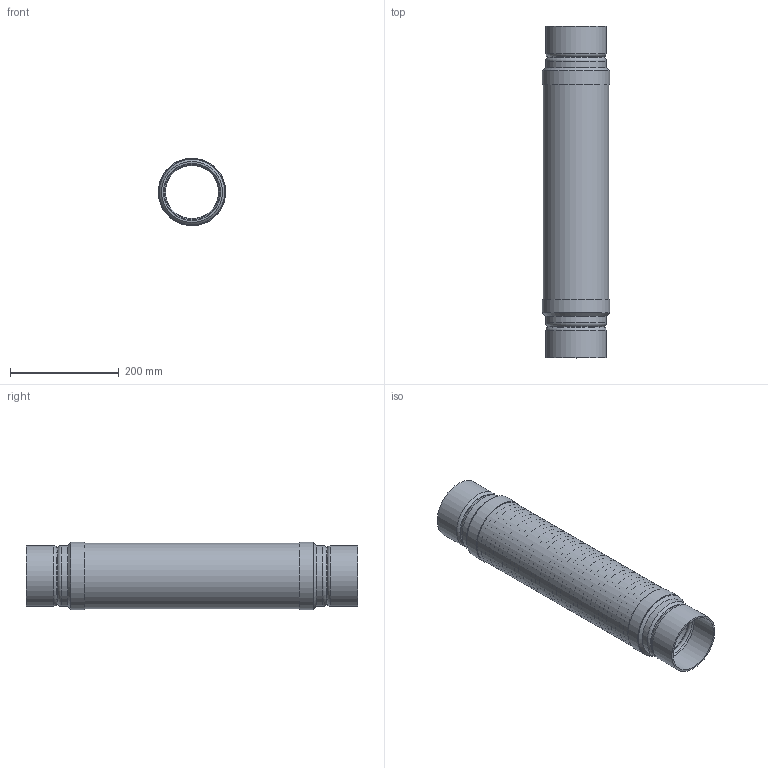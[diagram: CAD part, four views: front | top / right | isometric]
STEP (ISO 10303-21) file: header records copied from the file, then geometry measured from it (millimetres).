
FILE_DESCRIPTION((''),'2;1');
FILE_NAME('C:\2012_Work\Designs\CPSB\CPSB-4x18\CPSB-4x24.stp','2013-08-27T13:37:00',('KShiels'),(''),'Autodesk Inventor 2012','Autodesk Inventor 2012','');
FILE_SCHEMA(('AUTOMOTIVE_DESIGN { 1 0 10303 214 1 1 1 1 }'));
Length unit declared in the file: inch
Products named in the file (6): CPSB-4x24; CPSB-4x24_Welds; A-32711_4x24_CPSB_BRAID; A-32711_4x24_CPSB_BELLOWS; A-32711_4x24_CPSB_BRAID-COLLAR; A-32711_4x24_CPSB_GROOVED_NIPPLE
Assembly tree (7 placements, depth 2):
  CPSB-4x24
    CPSB-4x24_Welds
    A-32711_4x24_CPSB_BRAID
    A-32711_4x24_CPSB_BELLOWS
    A-32711_4x24_CPSB_BRAID-COLLAR  x2
    A-32711_4x24_CPSB_GROOVED_NIPPLE  x2
Bounding box: 123.88 x 609.6 x 123.88 mm (x, y, z)
Volume: 444972.7 mm3; surface area: 1187898 mm2
Topology: 8 solids, 8 shells, 374 faces, 578 edges, 382 vertices
Faces by surface type: plane 178, torus 178, cylinder 16, cone 2
Full cylindrical faces by diameter (mm): 104.978 x4, 111.785 x6, 119.888 x1, 120.701 x3, 123.876 x2
Entity records: 7442 total; most frequent: DIRECTION 1466, CARTESIAN_POINT 1095, AXIS2_PLACEMENT_3D 733, ORIENTED_EDGE 724, EDGE_LOOP 716, VERTEX_POINT 362, CIRCLE 362, EDGE_CURVE 362
